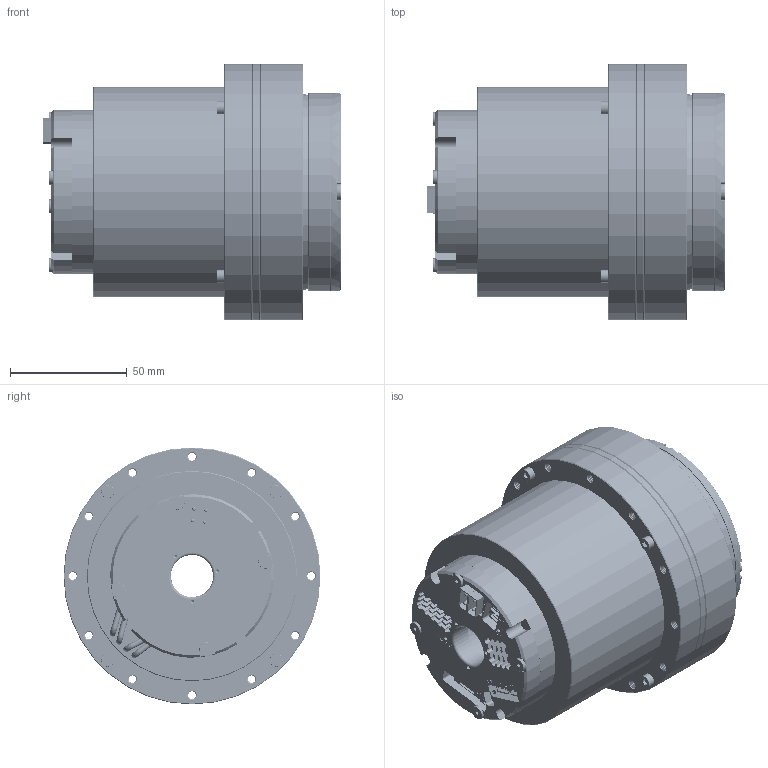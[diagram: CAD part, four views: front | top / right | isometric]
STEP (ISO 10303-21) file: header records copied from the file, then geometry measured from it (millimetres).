
FILE_DESCRIPTION (( 'STEP AP214' ), '1' );
FILE_NAME ('eRob110 I.STEP', '2020-08-07T09:49:53', ( 'admin' ), ( '' ), 'SwSTEP 2.0', 'SolidWorks 2016', '' );
FILE_SCHEMA (( 'AUTOMOTIVE_DESIGN' ));
Length unit declared in the file: millimetre
Products named in the file (1): eRob110 I
Bounding box: 127.3 x 110 x 110 mm (x, y, z)
Volume: 693045.8 mm3; surface area: 145993.1 mm2
Topology: 38 solids, 54 shells, 3515 faces, 9346 edges, 6065 vertices
Faces by surface type: plane 1687, cylinder 1272, bspline 256, cone 220, torus 80
Entity records: 195482 total; most frequent: CARTESIAN_POINT 74085, ORIENTED_EDGE 18536, DIRECTION 15316, EDGE_CURVE 9268, VERTEX_POINT 6065, VECTOR 5788, LINE 5788, AXIS2_PLACEMENT_3D 4764
